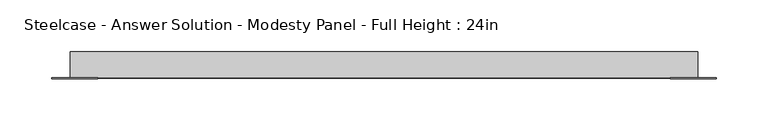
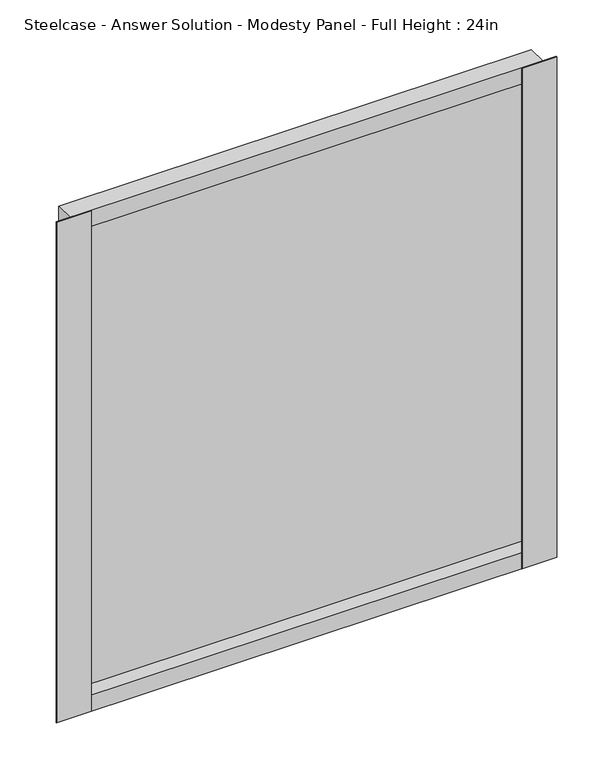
"""IFC4 building model written with IfcOpenShell, lengths in millimetres: furniture geometry, Steelcase - Answer Solution - Modesty Panel - Full Height : 24in."""

from ifc_helpers import new_model, si_unit, frame, origin, place, context, project, spatial, polyline, outline, extrude, faceted_brep, source, transform, mapped, element, save


def steelcase_answer_solution_modesty_panel_full_height_24in_1d2cab0f(model_context):
    return source(origin(), model_context, "Body", "SolidModel", [
        extrude(outline(polyline([(1153.1400478, -14.2668826), (1153.1400478, -15.0593624), (1108.7248254, -15.0593624), (1108.7248254, -14.2668826), (1153.1400478, -14.2668826)])), frame((0.0, 0.0, 17.653), z_axis=(0.0, 0.0, 1.0), x_axis=(1.0, 0.0, 0.0)), (0.0, 0.0, 1.0), 678.18),
        extrude(outline(polyline([(556.9673392, -14.2668826), (556.9673392, -15.0593624), (512.5520826, -15.0593624), (512.5520826, -14.2668826), (556.9673392, -14.2668826)])), frame((0.0, 0.0, 17.653), z_axis=(0.0, 0.0, 1.0), x_axis=(1.0, 0.0, 0.0)), (0.0, 0.0, 1.0), 678.18),
        faceted_brep([(530.0780827, 10.9045177, 17.653), (530.0780827, -14.2668826, 17.653), (530.0780827, -14.2668826, 695.833), (530.0780827, 10.9045177, 695.833), (1135.6140827, -14.2668826, 17.653), (1135.6140827, 10.9045177, 17.653), (1135.6140827, 10.9045177, 695.833), (1135.6140827, -14.2668826, 695.833), (1134.8216165, 4.7831174, 39.243), (530.8705628, 4.7831174, 39.243), (530.8705628, -14.2668826, 39.243), (1134.8216165, -14.2668826, 39.243), (530.8705628, -14.2668826, 674.243), (1134.8216165, -14.2668826, 674.243), (530.8705628, 4.7831174, 674.243), (1134.8216165, 4.7831174, 674.243)], [[[0, 1, 2, 3]], [[4, 5, 6, 7]], [[8, 9, 10, 11]], [[0, 3, 6, 5]], [[4, 1, 0, 5]], [[2, 1, 4, 7], [10, 12, 13, 11]], [[3, 2, 7, 6]], [[14, 15, 13, 12]], [[9, 8, 15, 14]], [[12, 10, 9, 14]], [[11, 13, 15, 8]]]),
    ])


if __name__ == "__main__":
    model = new_model("IFC4")
    model_context = context("Model", 3, world=origin())
    ifc_project = project(units=[si_unit("LENGTHUNIT", "METRE", prefix="MILLI")], contexts=[model_context])
    site = spatial("IfcSite", under=ifc_project)
    building = spatial("IfcBuilding", under=site)
    placement = place(None, origin())
    steelcase_answer_solution_modesty_panel_full_height_24in_shape = steelcase_answer_solution_modesty_panel_full_height_24in_1d2cab0f(model_context)
    element("IfcFurniture", 1, ObjectType="Steelcase - Answer Solution - Modesty Panel - Full Height : 24in", at=placement, inside=building, context=model_context, shape_type="MappedRepresentation", body=[
        mapped(steelcase_answer_solution_modesty_panel_full_height_24in_shape, transform((0.0, 0.0, 0.0), x_axis=(1.0, 0.0, 0.0), y_axis=(0.0, 1.0, 0.0), z_axis=(0.0, 0.0, 1.0))),
    ])
    save(model, "model.ifc")
